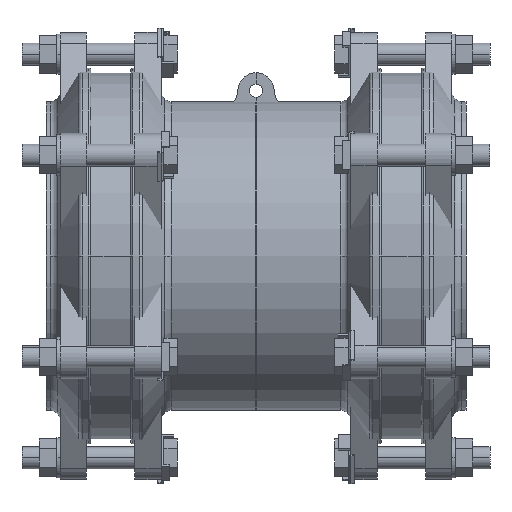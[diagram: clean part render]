
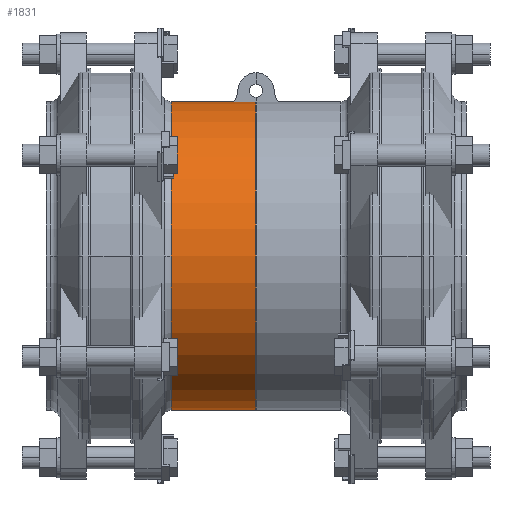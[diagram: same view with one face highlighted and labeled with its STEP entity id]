
A CAD part, front view. The second image highlights one B-rep face of the part: STEP entity #1831.
In plain terms, the highlighted cylindrical face has radius 141.5 mm (diameter 283 mm), a partial arc.
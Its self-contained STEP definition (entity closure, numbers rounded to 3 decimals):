
#1831=ADVANCED_FACE('',(#3911),#3912,.T.);
#3911=FACE_OUTER_BOUND('',#6684,.T.);
#3912=CYLINDRICAL_SURFACE('',#6685,141.5);
#6684=EDGE_LOOP('',(#10318,#10319,#10320,#10321,#10322));
#6685=AXIS2_PLACEMENT_3D('',#10323,#10324,#10325);
#10318=ORIENTED_EDGE('',*,*,#16230,.F.);
#10319=ORIENTED_EDGE('',*,*,#16231,.T.);
#10320=ORIENTED_EDGE('',*,*,#16232,.T.);
#10321=ORIENTED_EDGE('',*,*,#16233,.F.);
#10322=ORIENTED_EDGE('',*,*,#16234,.F.);
#10323=CARTESIAN_POINT('',(-62.956,-160.22,92.499));
#10324=DIRECTION('',(1.0,0.,0.));
#10325=DIRECTION('',(0.,0.,1.0));
#16230=EDGE_CURVE('',#19593,#19594,#19595,.T.);
#16231=EDGE_CURVE('',#19593,#19596,#19597,.T.);
#16232=EDGE_CURVE('',#19596,#19598,#19599,.T.);
#16233=EDGE_CURVE('',#19600,#19598,#19601,.T.);
#16234=EDGE_CURVE('',#19594,#19600,#19602,.T.);
#19593=VERTEX_POINT('',#24031);
#19594=VERTEX_POINT('',#24032);
#19595=LINE('',#24033,#24034);
#19596=VERTEX_POINT('',#24035);
#19597=CIRCLE('',#24036,141.5);
#19598=VERTEX_POINT('',#24037);
#19599=CIRCLE('',#24038,141.5);
#19600=VERTEX_POINT('',#24039);
#19601=LINE('',#24040,#24041);
#19602=CIRCLE('',#24042,141.5);
#24031=CARTESIAN_POINT('',(-101.915,-160.22,233.999));
#24032=CARTESIAN_POINT('',(-23.998,-160.22,233.999));
#24033=CARTESIAN_POINT('',(-62.956,-160.22,233.999));
#24034=VECTOR('',#28000,1.0);
#24035=CARTESIAN_POINT('',(-101.915,-301.72,92.499));
#24036=AXIS2_PLACEMENT_3D('',#28001,#28002,#28003);
#24037=CARTESIAN_POINT('',(-101.915,-160.22,-49.001));
#24038=AXIS2_PLACEMENT_3D('',#28004,#28005,#28006);
#24039=CARTESIAN_POINT('',(-23.998,-160.22,-49.001));
#24040=CARTESIAN_POINT('',(-62.956,-160.22,-49.001));
#24041=VECTOR('',#28007,1.0);
#24042=AXIS2_PLACEMENT_3D('',#28008,#28009,#28010);
#28000=DIRECTION('',(1.0,0.,0.));
#28001=CARTESIAN_POINT('',(-101.915,-160.22,92.499));
#28002=DIRECTION('',(1.0,0.,0.));
#28003=DIRECTION('',(0.,0.,1.0));
#28004=CARTESIAN_POINT('',(-101.915,-160.22,92.499));
#28005=DIRECTION('',(1.0,0.,0.));
#28006=DIRECTION('',(0.,0.,1.0));
#28007=DIRECTION('',(-1.0,0.,0.));
#28008=CARTESIAN_POINT('',(-23.998,-160.22,92.499));
#28009=DIRECTION('',(1.0,0.,0.));
#28010=DIRECTION('',(0.,0.,1.0));
